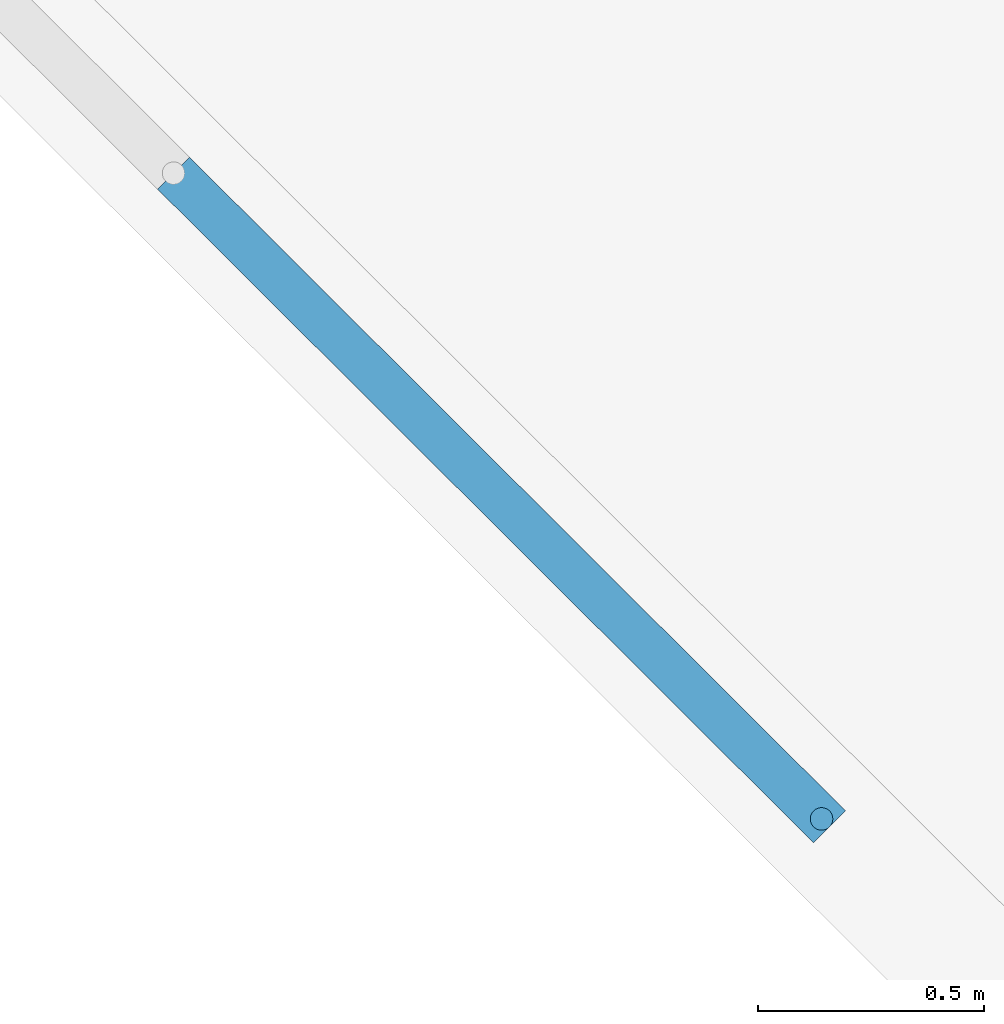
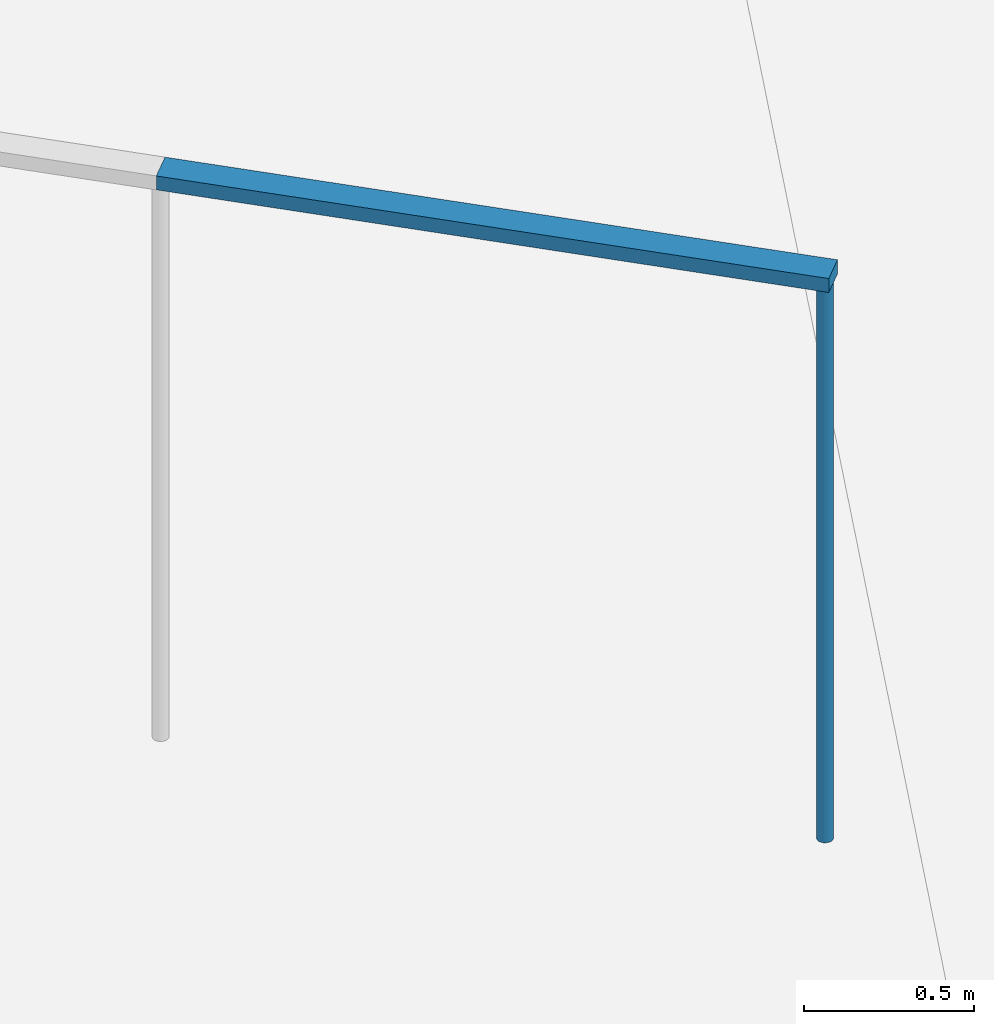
# One storey, part 8 of 33: 2 members, 1 element without a shape of its own.
"""IFC2X3 building model written with IfcOpenShell, lengths in metres."""

from ifc_helpers import new_model, entity, si_unit, converted_unit, derived_unit, direction, frame, frame_2d, origin, origin_2d_with_axis, place, context, subcontext, project, spatial, rectangle, circle, extrude, source, transform, mapped, material, type_object, type_shapes, element, aggregate, save


model = new_model("IFC2X3")

# Units and contexts
model_context = context("Model", 3, precision=1e-05, world=origin(), true_north=direction((6.123031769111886e-17, 1.0)))
body_context = subcontext(model_context, "Body", "Model", "MODEL_VIEW")
ifc_project = project(units=[si_unit("LENGTHUNIT", "METRE"), si_unit("AREAUNIT", "SQUARE_METRE"), si_unit("VOLUMEUNIT", "CUBIC_METRE"), converted_unit("PLANEANGLEUNIT", "DEGREE", entity("IfcRatioMeasure", 0.017453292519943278), si_unit("PLANEANGLEUNIT", "RADIAN"), dimensions=[0, 0, 0, 0, 0, 0, 0]), si_unit("MASSUNIT", "GRAM", prefix="KILO"), derived_unit("MASSDENSITYUNIT", [(si_unit("MASSUNIT", "GRAM", prefix="KILO"), 1), (si_unit("LENGTHUNIT", "METRE"), -3)]), derived_unit("IONCONCENTRATIONUNIT", [(si_unit("MASSUNIT", "GRAM", prefix="KILO"), 1), (si_unit("LENGTHUNIT", "METRE"), -3)]), derived_unit("MOMENTOFINERTIAUNIT", [(si_unit("LENGTHUNIT", "METRE"), 4)]), si_unit("TIMEUNIT", "SECOND"), si_unit("FREQUENCYUNIT", "HERTZ"), si_unit("THERMODYNAMICTEMPERATUREUNIT", "DEGREE_CELSIUS"), derived_unit("THERMALTRANSMITTANCEUNIT", [(si_unit("MASSUNIT", "GRAM", prefix="KILO"), 1), (si_unit("THERMODYNAMICTEMPERATUREUNIT", "KELVIN"), -1), (si_unit("TIMEUNIT", "SECOND"), -3)]), derived_unit("THERMALCONDUCTANCEUNIT", [(si_unit("MASSUNIT", "GRAM", prefix="KILO"), 1), (si_unit("THERMODYNAMICTEMPERATUREUNIT", "KELVIN"), -1), (si_unit("TIMEUNIT", "SECOND"), -3), (si_unit("LENGTHUNIT", "METRE"), 1)]), derived_unit("VOLUMETRICFLOWRATEUNIT", [(si_unit("LENGTHUNIT", "METRE"), 3), (si_unit("TIMEUNIT", "SECOND"), -1)]), derived_unit("MASSFLOWRATEUNIT", [(si_unit("MASSUNIT", "GRAM", prefix="KILO"), 1), (si_unit("TIMEUNIT", "SECOND"), -1)]), derived_unit("ROTATIONALFREQUENCYUNIT", [(si_unit("TIMEUNIT", "SECOND"), -1)]), si_unit("ELECTRICCURRENTUNIT", "AMPERE"), si_unit("ELECTRICVOLTAGEUNIT", "VOLT"), si_unit("POWERUNIT", "WATT"), si_unit("FORCEUNIT", "NEWTON", prefix="KILO"), si_unit("ILLUMINANCEUNIT", "LUX"), si_unit("LUMINOUSFLUXUNIT", "LUMEN"), si_unit("LUMINOUSINTENSITYUNIT", "CANDELA"), derived_unit("USERDEFINED", [(si_unit("MASSUNIT", "GRAM", prefix="KILO"), -1), (si_unit("LENGTHUNIT", "METRE"), -2), (si_unit("TIMEUNIT", "SECOND"), 3), (si_unit("LUMINOUSFLUXUNIT", "LUMEN"), 1)]), derived_unit("USERDEFINED", [(si_unit("MASSUNIT", "GRAM", prefix="KILO"), 1), (si_unit("TIMEUNIT", "SECOND"), -3), (si_unit("LENGTHUNIT", "METRE"), 3), (si_unit("ELECTRICCURRENTUNIT", "AMPERE"), -2)]), derived_unit("SOUNDPOWERUNIT", [(si_unit("MASSUNIT", "GRAM", prefix="KILO"), 1), (si_unit("TIMEUNIT", "SECOND"), -3), (si_unit("LENGTHUNIT", "METRE"), 2)]), derived_unit("SOUNDPRESSUREUNIT", [(si_unit("MASSUNIT", "GRAM", prefix="KILO"), 1), (si_unit("LENGTHUNIT", "METRE"), -1), (si_unit("TIMEUNIT", "SECOND"), -2)]), derived_unit("LINEARVELOCITYUNIT", [(si_unit("LENGTHUNIT", "METRE"), 1), (si_unit("TIMEUNIT", "SECOND"), -1)]), si_unit("PRESSUREUNIT", "PASCAL"), derived_unit("USERDEFINED", [(si_unit("MASSUNIT", "GRAM", prefix="KILO"), 1), (si_unit("LENGTHUNIT", "METRE"), -2), (si_unit("TIMEUNIT", "SECOND"), -2)]), derived_unit("LINEARFORCEUNIT", [(si_unit("MASSUNIT", "GRAM", prefix="KILO"), 1), (si_unit("TIMEUNIT", "SECOND"), -2)]), derived_unit("PLANARFORCEUNIT", [(si_unit("MASSUNIT", "GRAM", prefix="KILO"), 1), (si_unit("LENGTHUNIT", "METRE"), -1), (si_unit("TIMEUNIT", "SECOND"), -2)]), derived_unit("SPECIFICHEATCAPACITYUNIT", [(si_unit("THERMODYNAMICTEMPERATUREUNIT", "KELVIN"), -1), (si_unit("LENGTHUNIT", "METRE"), 2), (si_unit("TIMEUNIT", "SECOND"), -2)]), derived_unit("HEATINGVALUEUNIT", [(si_unit("LENGTHUNIT", "METRE"), 2), (si_unit("TIMEUNIT", "SECOND"), -2)]), derived_unit("VAPORPERMEABILITYUNIT", [(si_unit("LENGTHUNIT", "METRE"), -1), (si_unit("TIMEUNIT", "SECOND"), 1)]), derived_unit("DYNAMICVISCOSITYUNIT", [(si_unit("MASSUNIT", "GRAM", prefix="KILO"), 1), (si_unit("TIMEUNIT", "SECOND"), -1), (si_unit("LENGTHUNIT", "METRE"), -1)]), derived_unit("THERMALEXPANSIONCOEFFICIENTUNIT", [(si_unit("THERMODYNAMICTEMPERATUREUNIT", "KELVIN"), -1)]), derived_unit("MODULUSOFELASTICITYUNIT", [(si_unit("MASSUNIT", "GRAM", prefix="KILO"), 1), (si_unit("LENGTHUNIT", "METRE"), -1), (si_unit("TIMEUNIT", "SECOND"), -2)]), derived_unit("ISOTHERMALMOISTURECAPACITYUNIT", [(si_unit("LENGTHUNIT", "METRE"), 3), (si_unit("MASSUNIT", "GRAM", prefix="KILO"), -1)]), derived_unit("MOISTUREDIFFUSIVITYUNIT", [(si_unit("TIMEUNIT", "SECOND"), -1), (si_unit("LENGTHUNIT", "METRE"), 2)])], contexts=[model_context])

# Site, building, storey
site_placement = place(None, origin())
site = spatial("IfcSite", under=ifc_project, at=site_placement, Name="Superficie", CompositionType="ELEMENT")
building_placement = place(site_placement, frame((0.0, 0.0, 235.0), z_axis=(0.0, 0.0, 1.0), x_axis=(-0.7996477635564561, 0.6004693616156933, 0.0)))
building = spatial("IfcBuilding", under=site, at=building_placement, CompositionType="ELEMENT")
storey_placement = place(building_placement, origin())
storey = spatial("IfcBuildingStorey", under=building, at=storey_placement, Name="P0- Escola", CompositionType="ELEMENT", Elevation=0.0)

# Curtain wall, members
curtain_wall_type = type_object("IfcCurtainWallType", Name="Muro cortina:SER EXT- Tanca exterior", PredefinedType="NOTDEFINED")
curtain_wall_placement = place(storey_placement, origin())
curtain_wall = element("IfcCurtainWall", 1, at=curtain_wall_placement, inside=storey, type_object=curtain_wall_type, Name="Muro cortina:SER EXT- Tanca exterior", ObjectType="Muro cortina:SER EXT- Tanca exterior")
ifc_material_1 = material(Name="Acero inoxidable")
member_type_1 = type_object("IfcMemberType", Name="Montante circular:Perfil Tanca exterior", PredefinedType="MULLION", material=ifc_material_1)
shared_shape_1 = source(origin(), body_context, "Body", "SweptSolid", [
    extrude(circle(Radius=0.025, at=frame_2d((-1.304992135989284e-31, 4.038861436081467e-17), x_axis=(1.0, 0.0))), frame((-0.025, 0.0, -2.0)), (0.0, 0.0, 1.0), 1.9999999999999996),
])
type_shapes(member_type_1, [shared_shape_1])
member_1_placement = place(curtain_wall_placement, frame((11.136546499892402, -4.094750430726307, 3.469999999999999), z_axis=(0.0, 0.0, 1.0), x_axis=(-0.9902804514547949, 0.1390849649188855, 0.0)))
member_1 = element("IfcMember", 2, at=member_1_placement, type_object=member_type_1, material=ifc_material_1, Name="Montante circular:Perfil Tanca exterior", ObjectType="Montante circular:Perfil Tanca exterior", context=body_context, shape_type="MappedRepresentation", body=[
    mapped(shared_shape_1, transform((0.0, 0.0, 0.0), scale=1.0)),
])
ifc_material_2 = material(Name="_Formigó- Solera- T1- STR")
member_type_2 = type_object("IfcMemberType", Name="Montante rectangular:Montante rectangular 100x50", PredefinedType="MULLION", material=ifc_material_2)
shared_shape_2 = source(origin(), body_context, "Body", "SweptSolid", [
    extrude(rectangle(XDim=0.1, YDim=0.05000000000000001, at=origin_2d_with_axis()), frame((-0.025000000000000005, 0.0, -2.0499999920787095), z_axis=(0.0, 0.0, 1.0), x_axis=(0.0, -1.0, 0.0)), (0.0, 0.0, 1.0), 2.04999999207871),
])
type_shapes(member_type_2, [shared_shape_2])
member_2_placement = place(curtain_wall_placement, frame((13.166621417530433, -4.37987460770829, 3.519999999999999), z_axis=(0.9902804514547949, -0.13908496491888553, 0.0), x_axis=(0.0, 0.0, 1.0)))
member_2 = element("IfcMember", 3, at=member_2_placement, type_object=member_type_2, material=ifc_material_2, Name="Montante rectangular:Montante rectangular 100x50", ObjectType="Montante rectangular:Montante rectangular 100x50", context=body_context, shape_type="MappedRepresentation", body=[
    mapped(shared_shape_2, transform((0.0, 0.0, 0.0), scale=1.0)),
])
aggregate(curtain_wall, [member_1, member_2])

save(model, "model.ifc")
